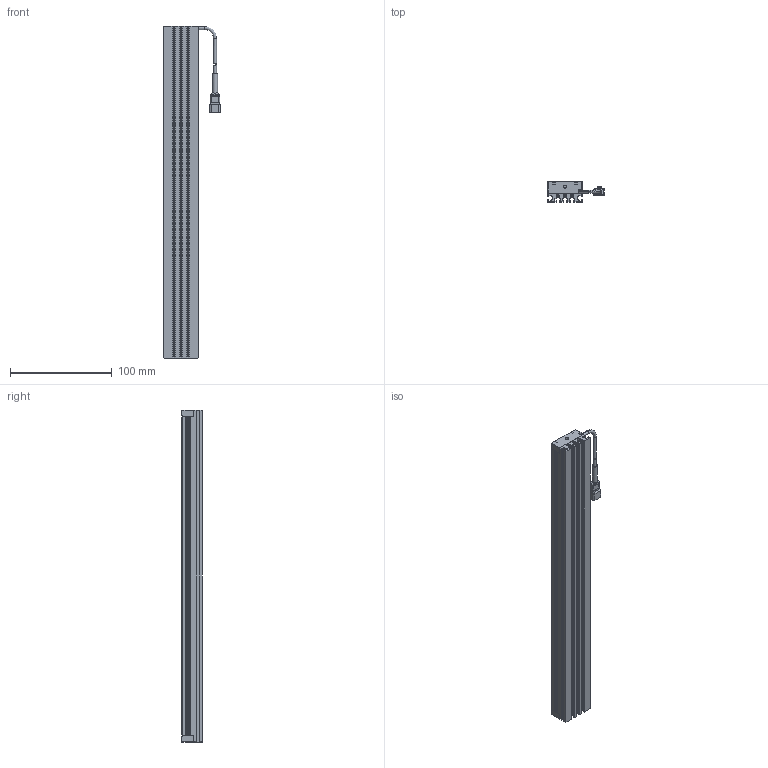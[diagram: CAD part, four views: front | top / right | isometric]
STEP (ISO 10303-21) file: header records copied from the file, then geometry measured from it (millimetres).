
FILE_DESCRIPTION (( 'STEP AP203' ), '1' );
FILE_NAME ('LDL2-314X30GR2.STEP', '2024-10-01T02:33:01', ( 'CCS' ), ( 'シーシーエス株式会社' ), 'SwSTEP 2.0', 'SolidWorks 2022', '' );
FILE_SCHEMA (( 'CONFIG_CONTROL_DESIGN' ));
Length unit declared in the file: millimetre
Products named in the file (7): BSCA002-N007_M2x12_CAP(三価ｸﾛﾑ黒色); ブロック30A_LDL2-314X30GR2; フレーム30_LDL2-314X30GR2; ブロック30B_LDL2-314X30GR2; SMケーブル_LDL2-314X30GR2_パターン2; LDL2-314X30GR2; レンズ30_LDL2-314X30GR2
Assembly tree (9 placements, depth 2):
  LDL2-314X30GR2
    フレーム30_LDL2-314X30GR2
    レンズ30_LDL2-314X30GR2
    ブロック30B_LDL2-314X30GR2
    ブロック30A_LDL2-314X30GR2
    BSCA002-N007_M2x12_CAP(三価ｸﾛﾑ黒色)  x4
    SMケーブル_LDL2-314X30GR2_パターン2
Bounding box: 55.75 x 20 x 326 mm (x, y, z)
Volume: 170152.2 mm3; surface area: 97992.8 mm2
Topology: 10 solids, 10 shells, 481 faces, 1243 edges, 785 vertices
Faces by surface type: plane 288, cylinder 107, bspline 44, cone 24, torus 18
Entity records: 14886 total; most frequent: CARTESIAN_POINT 4295, ORIENTED_EDGE 2118, DIRECTION 1903, EDGE_CURVE 1059, LINE 761, VECTOR 761, VERTEX_POINT 686, AXIS2_PLACEMENT_3D 571
